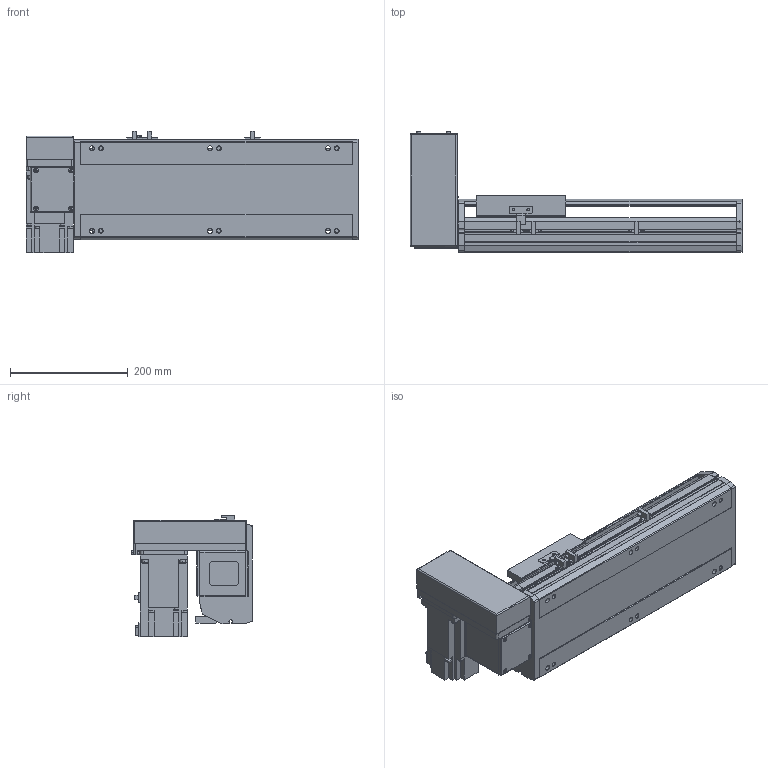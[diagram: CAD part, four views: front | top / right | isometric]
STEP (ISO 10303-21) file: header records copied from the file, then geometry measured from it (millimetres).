
FILE_DESCRIPTION( ( 'STEP AP214' ), '1' );
FILE_NAME( 'x:/temp/worker_5/temp/exporttempdir_3988_105_CSbGe/format_0/PBS170-P40-S200-RU-T75-C1-N(0).stp', '2022-06-08T05:55:18', ( 'License CC BY-ND 4.0' ), ( 'CADENAS' ), ' ', 'PARTsolutions', ' ' );
FILE_SCHEMA( ( 'AUTOMOTIVE_DESIGN { 1 0 10303 214 1 1 1 1 }' ) );
Length unit declared in the file: millimetre
Products named in the file (7): PBS170-P40-S200-RU-T75-C1-N(0); _PBS170-S200()_body; _PBS170T-RU_motors; _T75-p1; _PBS170_sliser; _PBS170_plant; _PBS170_sensor
Assembly tree (8 placements, depth 2):
  PBS170-P40-S200-RU-T75-C1-N(0)
    _PBS170-S200()_body
    _PBS170T-RU_motors
    _T75-p1
    _PBS170_sliser
    _PBS170_plant
    _PBS170_sensor  x3
Bounding box: 563 x 206 x 205.3 mm (x, y, z)
Volume: 5292426.1 mm3; surface area: 751561.9 mm2
Topology: 8 solids, 8 shells, 1002 faces, 2675 edges, 1744 vertices
Faces by surface type: plane 657, cylinder 299, cone 36, sphere 8, torus 2
Full cylindrical faces by diameter (mm): 3.242 x4, 4 x2, 4.4 x4, 4.5 x6, 4.917 x4, 6 x9, 6.647 x14, 7 x2, 7.5 x4, 8 x8, 8.5 x6, 10 x4, 10.5 x6, 11 x2, 30 x2, 40 x1, 70 x1
Entity records: 36530 total; most frequent: CARTESIAN_POINT 5381, DIRECTION 4950, ORIENTED_EDGE 4728, EDGE_CURVE 2364, AXIS2_PLACEMENT_3D 1687, VERTEX_POINT 1610, LINE 1576, VECTOR 1576
